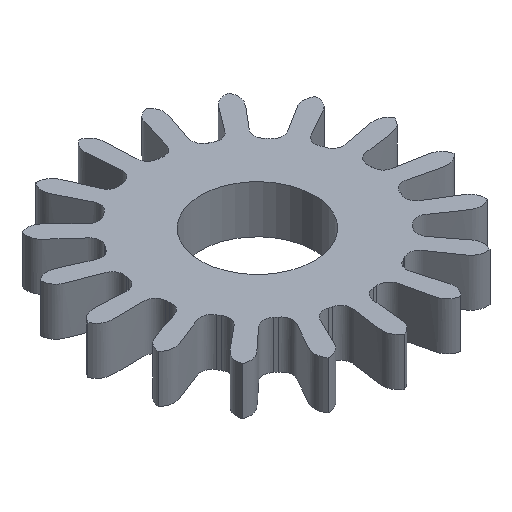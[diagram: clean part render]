
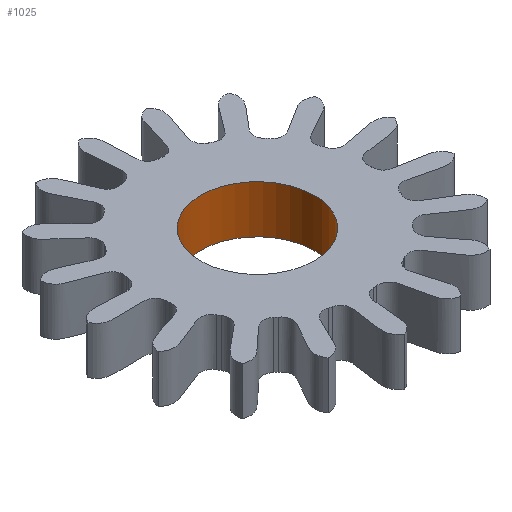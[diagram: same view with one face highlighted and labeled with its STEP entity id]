
A CAD part, isometric view. The second image highlights one B-rep face of the part: STEP entity #1025.
In plain terms, the highlighted cylindrical face has radius 2.292 mm (diameter 4.585 mm), a full revolution.
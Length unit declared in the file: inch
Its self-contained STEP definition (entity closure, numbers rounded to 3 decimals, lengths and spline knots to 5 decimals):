
#120=FACE_OUTER_BOUND('',#174,.T.);
#174=EDGE_LOOP('',(#636,#637,#638,#639,#640,#641));
#230=LINE('',#1333,#282);
#282=VECTOR('',#1163,0.09026);
#334=CIRCLE('',#1100,0.09026);
#335=CIRCLE('',#1101,0.09026);
#336=CIRCLE('',#1102,0.09026);
#337=CIRCLE('',#1103,0.09026);
#372=VERTEX_POINT('',#1329);
#373=VERTEX_POINT('',#1330);
#374=VERTEX_POINT('',#1332);
#375=VERTEX_POINT('',#1334);
#478=EDGE_CURVE('',#372,#373,#334,.T.);
#479=EDGE_CURVE('',#373,#374,#230,.T.);
#480=EDGE_CURVE('',#375,#374,#335,.T.);
#481=EDGE_CURVE('',#374,#375,#336,.T.);
#482=EDGE_CURVE('',#373,#372,#337,.T.);
#636=ORIENTED_EDGE('',*,*,#478,.T.);
#637=ORIENTED_EDGE('',*,*,#479,.T.);
#638=ORIENTED_EDGE('',*,*,#480,.F.);
#639=ORIENTED_EDGE('',*,*,#481,.F.);
#640=ORIENTED_EDGE('',*,*,#479,.F.);
#641=ORIENTED_EDGE('',*,*,#482,.T.);
#952=CYLINDRICAL_SURFACE('',#1099,0.09026);
#1025=ADVANCED_FACE('',(#120),#952,.F.);
#1099=AXIS2_PLACEMENT_3D('',#1328,#1159,#1160);
#1100=AXIS2_PLACEMENT_3D('',#1331,#1161,#1162);
#1101=AXIS2_PLACEMENT_3D('',#1335,#1164,#1165);
#1102=AXIS2_PLACEMENT_3D('',#1336,#1166,#1167);
#1103=AXIS2_PLACEMENT_3D('',#1337,#1168,#1169);
#1159=DIRECTION('center_axis',(0.,0.,
-1.));
#1160=DIRECTION('ref_axis',(0.66,-0.751,0.));
#1161=DIRECTION('center_axis',(0.,0.,
1.));
#1162=DIRECTION('ref_axis',(-0.66,0.751,0.));
#1163=DIRECTION('',(0.,0.,-1.));
#1164=DIRECTION('center_axis',(0.,0.,
1.));
#1165=DIRECTION('ref_axis',(-0.66,0.751,0.));
#1166=DIRECTION('center_axis',(0.,0.,
1.));
#1167=DIRECTION('ref_axis',(-0.66,0.751,0.));
#1168=DIRECTION('center_axis',(0.,0.,
1.));
#1169=DIRECTION('ref_axis',(-0.66,0.751,0.));
#1328=CARTESIAN_POINT('Origin',(0.,1.39992,
-0.17224));
#1329=CARTESIAN_POINT('',(0.05955,1.3321,-0.17224));
#1330=CARTESIAN_POINT('',(-0.05955,1.46774,-0.17224));
#1331=CARTESIAN_POINT('Origin',(0.,1.39992,
-0.17224));
#1332=CARTESIAN_POINT('',(-0.05955,1.46774,-0.24803));
#1333=CARTESIAN_POINT('',(-0.05955,1.46774,-0.17224));
#1334=CARTESIAN_POINT('',(0.05955,1.3321,-0.24803));
#1335=CARTESIAN_POINT('Origin',(0.,1.39992,
-0.24803));
#1336=CARTESIAN_POINT('Origin',(0.,1.39992,
-0.24803));
#1337=CARTESIAN_POINT('Origin',(0.,1.39992,
-0.17224));
